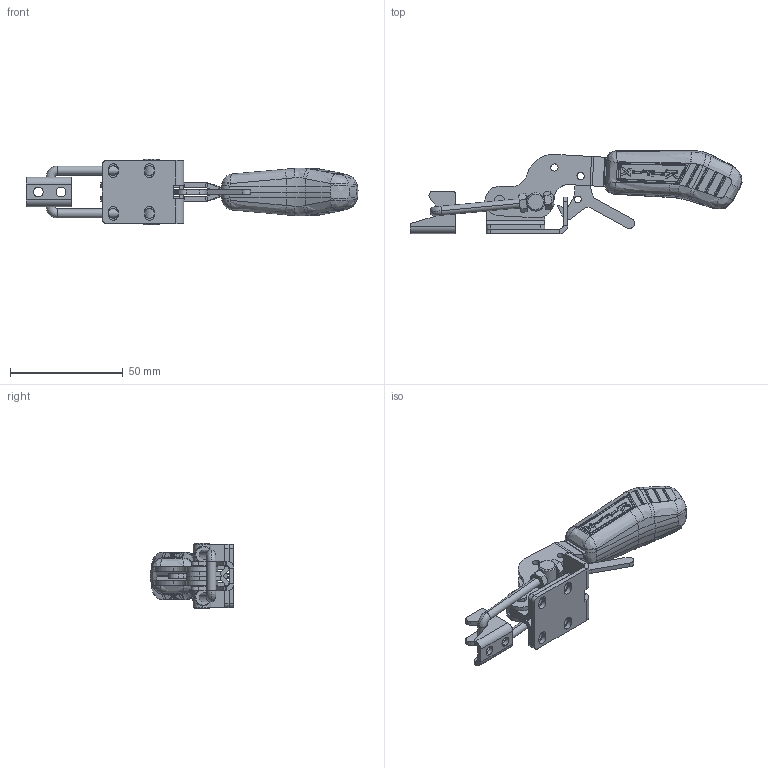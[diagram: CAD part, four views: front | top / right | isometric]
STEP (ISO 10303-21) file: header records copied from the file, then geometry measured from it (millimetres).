
FILE_DESCRIPTION (( 'STEP AP203' ), '1' );
FILE_NAME ('KF-233 D TR.STEP', '2014-11-12T17:42:33', ( 'Ricardo' ), ( '' ), 'SwSTEP 2.0', 'SolidWorks 2014', '' );
FILE_SCHEMA (( 'CONFIG_CONTROL_DESIGN' ));
Length unit declared in the file: millimetre
Products named in the file (14): 03.20036; 02.12060_Direita; 11.50007; 02.12060_Esquerda; 11.50022; 01.10205_Direita; 07.60005; 01.10205_Esquerda; 06.50022; 02.12135; 18.10035; 15.10041; KF-233 D TR; 16.20124
Assembly tree (15 placements, depth 2):
  KF-233 D TR
    02.12060_Direita
    02.12060_Esquerda
    01.10205_Direita
    01.10205_Esquerda
    15.10041
    16.20124
    03.20036
    11.50007  x2
    11.50022  x2
    07.60005
    06.50022
    02.12135
    18.10035
Bounding box: 147.23 x 36.91 x 29 mm (x, y, z)
Volume: 31396.1 mm3; surface area: 24458.2 mm2
Topology: 15 solids, 15 shells, 965 faces, 2475 edges, 1549 vertices
Faces by surface type: cylinder 316, plane 288, bspline 269, sphere 50, cone 34, torus 8
Entity records: 36808 total; most frequent: CARTESIAN_POINT 15062, ORIENTED_EDGE 4778, DIRECTION 3484, EDGE_CURVE 2389, VERTEX_POINT 1497, AXIS2_PLACEMENT_3D 1287, EDGE_LOOP 1002, FACE_OUTER_BOUND 931
